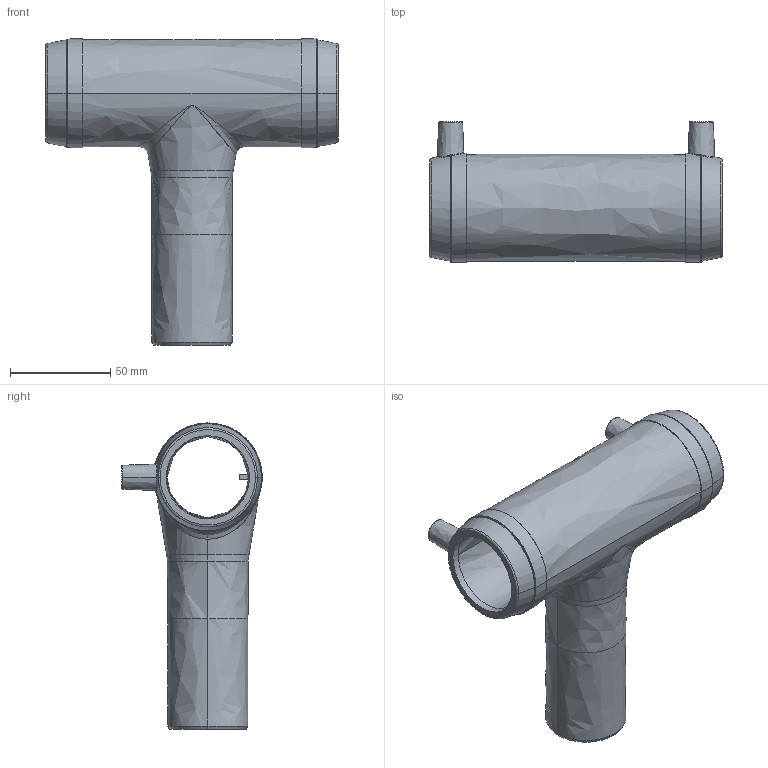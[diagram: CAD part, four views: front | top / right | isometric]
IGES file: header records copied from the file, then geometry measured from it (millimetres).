
Start section:  PTC IGES file: ta_d40-40_01.igs
Global section: file name: ta_d40-40_01.igs; native system: Pro/ENGINEER by Parametric Technology Corporation; preprocessor: 2011490; author: mtunjic; organization: Unknown; date: 20130812.120337; units: millimetre
Bounding box: 146 x 69.95 x 152.57 mm (x, y, z)
Surface area: 68322.3 mm2 (no closed solid volume)
Topology: 0 solids, 0 shells, 208 faces, 1016 edges, 1016 vertices
Faces by surface type: bspline 208
